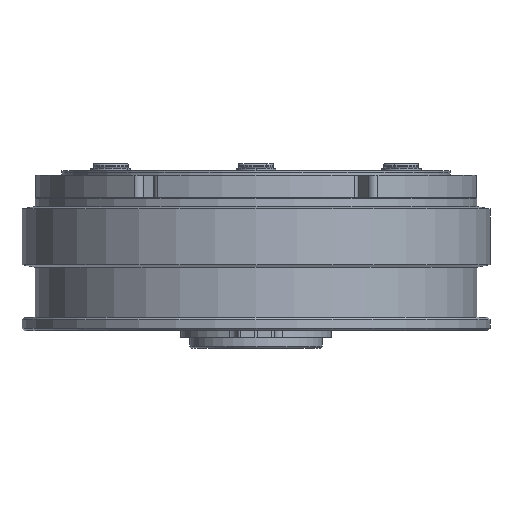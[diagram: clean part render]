
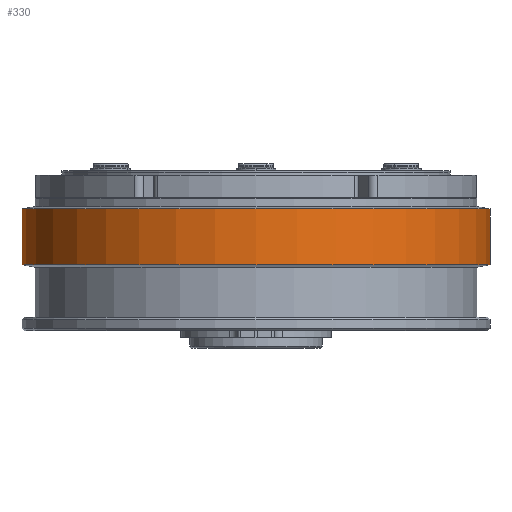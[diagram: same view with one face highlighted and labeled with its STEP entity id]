
A CAD part, front view. The second image highlights one B-rep face of the part: STEP entity #330.
In plain terms, the highlighted cylindrical face has radius 53 mm (diameter 106 mm), a partial arc.
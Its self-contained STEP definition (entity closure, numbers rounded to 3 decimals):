
#330 = ADVANCED_FACE ( 'NONE', ( #2061 ), #8936, .T. ) ;
#334 = AXIS2_PLACEMENT_3D ( 'NONE', #7995, #5767, #4420 ) ;
#1030 = LINE ( 'NONE', #8989, #5865 ) ;
#1336 = AXIS2_PLACEMENT_3D ( 'NONE', #8101, #3415, #8884 ) ;
#1838 = EDGE_CURVE ( 'NONE', #8575, #9763, #8695, .T. ) ;
#1909 = EDGE_CURVE ( 'NONE', #4614, #9763, #1030, .T. ) ;
#2025 = CIRCLE ( 'NONE', #4513, 53. ) ;
#2061 = FACE_OUTER_BOUND ( 'NONE', #6944, .T. ) ;
#2269 = VECTOR ( 'NONE', #2952, 1000. ) ;
#2952 = DIRECTION ( 'NONE',  ( 0., 0., -1. ) ) ;
#2960 = DIRECTION ( 'NONE',  ( 1., 0., 0. ) ) ;
#3109 = EDGE_CURVE ( 'NONE', #4614, #5752, #2025, .T. ) ;
#3415 = DIRECTION ( 'NONE',  ( 0., 0., 1. ) ) ;
#3599 = CARTESIAN_POINT ( 'NONE',  ( 0., 0., 27.571 ) ) ;
#4420 = DIRECTION ( 'NONE',  ( -1., 0., 0. ) ) ;
#4513 = AXIS2_PLACEMENT_3D ( 'NONE', #3599, #8290, #2960 ) ;
#4614 = VERTEX_POINT ( 'NONE', #6869 ) ;
#5423 = CARTESIAN_POINT ( 'NONE',  ( -53., 0., 27.571 ) ) ;
#5522 = CARTESIAN_POINT ( 'NONE',  ( 53., 0., 14.935 ) ) ;
#5752 = VERTEX_POINT ( 'NONE', #5423 ) ;
#5767 = DIRECTION ( 'NONE',  ( 0., 0., -1. ) ) ;
#5865 = VECTOR ( 'NONE', #6628, 1000. ) ;
#6032 = CARTESIAN_POINT ( 'NONE',  ( -53., 0., 30.1 ) ) ;
#6628 = DIRECTION ( 'NONE',  ( 0., 0., -1. ) ) ;
#6869 = CARTESIAN_POINT ( 'NONE',  ( 53., 0., 27.571 ) ) ;
#6944 = EDGE_LOOP ( 'NONE', ( #9144, #8329, #8881, #7552 ) ) ;
#7552 = ORIENTED_EDGE ( 'NONE', *, *, #1838, .T. ) ;
#7995 = CARTESIAN_POINT ( 'NONE',  ( 0., 0., 30.1 ) ) ;
#8101 = CARTESIAN_POINT ( 'NONE',  ( 0., 0., 14.935 ) ) ;
#8290 = DIRECTION ( 'NONE',  ( 0., 0., -1. ) ) ;
#8329 = ORIENTED_EDGE ( 'NONE', *, *, #3109, .T. ) ;
#8505 = LINE ( 'NONE', #6032, #2269 ) ;
#8575 = VERTEX_POINT ( 'NONE', #9260 ) ;
#8695 = CIRCLE ( 'NONE', #1336, 53. ) ;
#8881 = ORIENTED_EDGE ( 'NONE', *, *, #10064, .T. ) ;
#8884 = DIRECTION ( 'NONE',  ( -1., 0., 0. ) ) ;
#8936 = CYLINDRICAL_SURFACE ( 'NONE', #334, 53. ) ;
#8989 = CARTESIAN_POINT ( 'NONE',  ( 53., 0., 30.1 ) ) ;
#9144 = ORIENTED_EDGE ( 'NONE', *, *, #1909, .F. ) ;
#9260 = CARTESIAN_POINT ( 'NONE',  ( -53., 0., 14.935 ) ) ;
#9763 = VERTEX_POINT ( 'NONE', #5522 ) ;
#10064 = EDGE_CURVE ( 'NONE', #5752, #8575, #8505, .T. ) ;
